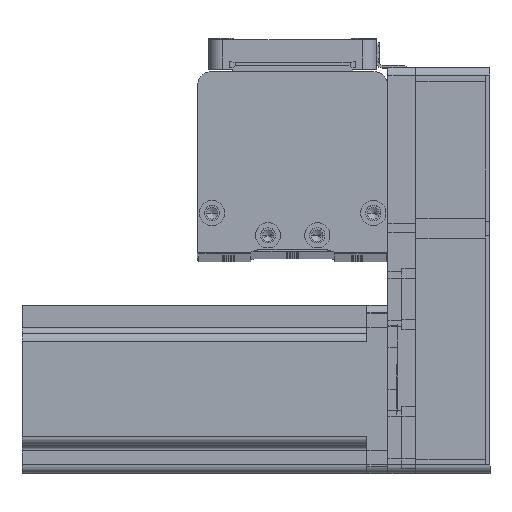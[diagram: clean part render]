
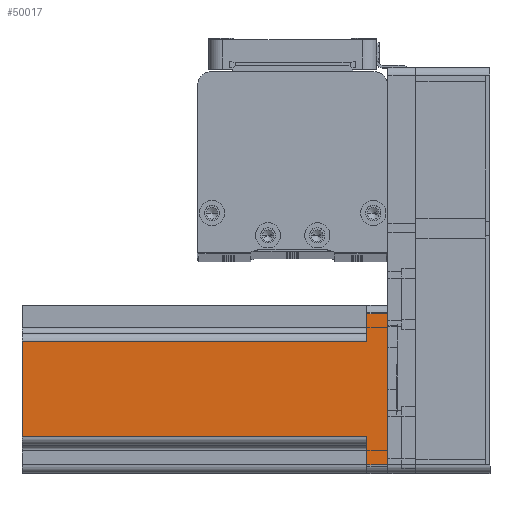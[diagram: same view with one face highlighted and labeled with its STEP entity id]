
A CAD part, top view. The second image highlights one B-rep face of the part: STEP entity #50017.
In plain terms, the highlighted planar face has unit normal (0, 0, 1) as drawn and (0, 1, 0) by its records, which use the part's own axes.
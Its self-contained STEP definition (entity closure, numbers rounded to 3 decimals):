
#2511 = VERTEX_POINT ( 'NONE', #25274 ) ;
#2572 = DIRECTION ( 'NONE',  ( 0., 0., -1. ) ) ;
#4384 = VERTEX_POINT ( 'NONE', #41861 ) ;
#5440 = CARTESIAN_POINT ( 'NONE',  ( 20., 30., 7.5 ) ) ;
#6175 = EDGE_LOOP ( 'NONE', ( #36173, #51835, #23247, #32880, #16617, #53184, #25531, #34089 ) ) ;
#6823 = FACE_OUTER_BOUND ( 'NONE', #6175, .T. ) ;
#8609 = EDGE_CURVE ( 'NONE', #28030, #10846, #42966, .T. ) ;
#8866 = VECTOR ( 'NONE', #50565, 1000. ) ;
#9073 = CARTESIAN_POINT ( 'NONE',  ( 30., 30., 0. ) ) ;
#10272 = LINE ( 'NONE', #15843, #18760 ) ;
#10846 = VERTEX_POINT ( 'NONE', #14410 ) ;
#10895 = CARTESIAN_POINT ( 'NONE',  ( -27., 30., 7.5 ) ) ;
#13060 = VECTOR ( 'NONE', #34598, 1000. ) ;
#14410 = CARTESIAN_POINT ( 'NONE',  ( 17., 30., 7.5 ) ) ;
#15682 = CARTESIAN_POINT ( 'NONE',  ( 30., 30., 130.7 ) ) ;
#15843 = CARTESIAN_POINT ( 'NONE',  ( -20., 30., 7.5 ) ) ;
#16617 = ORIENTED_EDGE ( 'NONE', *, *, #22377, .F. ) ;
#17927 = VECTOR ( 'NONE', #32139, 1000. ) ;
#18760 = VECTOR ( 'NONE', #20081, 1000. ) ;
#18987 = CARTESIAN_POINT ( 'NONE',  ( 27., 30., 130.7 ) ) ;
#19936 = DIRECTION ( 'NONE',  ( 1., 0., 0. ) ) ;
#19965 = LINE ( 'NONE', #9073, #8866 ) ;
#20081 = DIRECTION ( 'NONE',  ( 1., 0., 0. ) ) ;
#20340 = EDGE_CURVE ( 'NONE', #4384, #50650, #29692, .T. ) ;
#20495 = DIRECTION ( 'NONE',  ( 0., 0., -1. ) ) ;
#20839 = VECTOR ( 'NONE', #20495, 1000. ) ;
#22377 = EDGE_CURVE ( 'NONE', #4384, #10846, #35235, .T. ) ;
#23247 = ORIENTED_EDGE ( 'NONE', *, *, #31238, .F. ) ;
#23941 = DIRECTION ( 'NONE',  ( -1., 0., 0. ) ) ;
#25274 = CARTESIAN_POINT ( 'NONE',  ( -17., 30., 7.5 ) ) ;
#25531 = ORIENTED_EDGE ( 'NONE', *, *, #27028, .T. ) ;
#26551 = CARTESIAN_POINT ( 'NONE',  ( -27., 30., 130.7 ) ) ;
#26768 = CARTESIAN_POINT ( 'NONE',  ( 17., 30., 130.7 ) ) ;
#27028 = EDGE_CURVE ( 'NONE', #50650, #32023, #19965, .T. ) ;
#27937 = CARTESIAN_POINT ( 'NONE',  ( -17., 30., 130.7 ) ) ;
#28030 = VERTEX_POINT ( 'NONE', #26768 ) ;
#28834 = LINE ( 'NONE', #26551, #38572 ) ;
#29272 = CARTESIAN_POINT ( 'NONE',  ( -27., 30., 0. ) ) ;
#29692 = LINE ( 'NONE', #18987, #50493 ) ;
#30630 = VERTEX_POINT ( 'NONE', #10895 ) ;
#30772 = DIRECTION ( 'NONE',  ( 0., 0., 1. ) ) ;
#31238 = EDGE_CURVE ( 'NONE', #28030, #51082, #39253, .T. ) ;
#32023 = VERTEX_POINT ( 'NONE', #29272 ) ;
#32139 = DIRECTION ( 'NONE',  ( 0., 0., 1. ) ) ;
#32880 = ORIENTED_EDGE ( 'NONE', *, *, #8609, .T. ) ;
#33699 = CARTESIAN_POINT ( 'NONE',  ( 27., 30., 0. ) ) ;
#34089 = ORIENTED_EDGE ( 'NONE', *, *, #41391, .T. ) ;
#34598 = DIRECTION ( 'NONE',  ( -1., 0., 0. ) ) ;
#35235 = LINE ( 'NONE', #5440, #13060 ) ;
#35250 = EDGE_CURVE ( 'NONE', #30630, #2511, #10272, .T. ) ;
#35470 = AXIS2_PLACEMENT_3D ( 'NONE', #15682, #44843, #19936 ) ;
#36173 = ORIENTED_EDGE ( 'NONE', *, *, #35250, .T. ) ;
#38572 = VECTOR ( 'NONE', #30772, 1000. ) ;
#39253 = LINE ( 'NONE', #53004, #50320 ) ;
#40059 = LINE ( 'NONE', #27937, #17927 ) ;
#41081 = CARTESIAN_POINT ( 'NONE',  ( -17., 30., 130.7 ) ) ;
#41391 = EDGE_CURVE ( 'NONE', #32023, #30630, #28834, .T. ) ;
#41861 = CARTESIAN_POINT ( 'NONE',  ( 27., 30., 7.5 ) ) ;
#42966 = LINE ( 'NONE', #45382, #20839 ) ;
#44843 = DIRECTION ( 'NONE',  ( 0., -1., 0. ) ) ;
#45382 = CARTESIAN_POINT ( 'NONE',  ( 17., 30., 130.7 ) ) ;
#49961 = EDGE_CURVE ( 'NONE', #2511, #51082, #40059, .T. ) ;
#50017 = ADVANCED_FACE ( 'NONE', ( #6823 ), #53041, .F. ) ;
#50320 = VECTOR ( 'NONE', #23941, 1000. ) ;
#50493 = VECTOR ( 'NONE', #2572, 1000. ) ;
#50565 = DIRECTION ( 'NONE',  ( -1., 0., 0. ) ) ;
#50650 = VERTEX_POINT ( 'NONE', #33699 ) ;
#51082 = VERTEX_POINT ( 'NONE', #41081 ) ;
#51835 = ORIENTED_EDGE ( 'NONE', *, *, #49961, .T. ) ;
#53004 = CARTESIAN_POINT ( 'NONE',  ( 30., 30., 130.7 ) ) ;
#53041 = PLANE ( 'NONE',  #35470 ) ;
#53184 = ORIENTED_EDGE ( 'NONE', *, *, #20340, .T. ) ;
